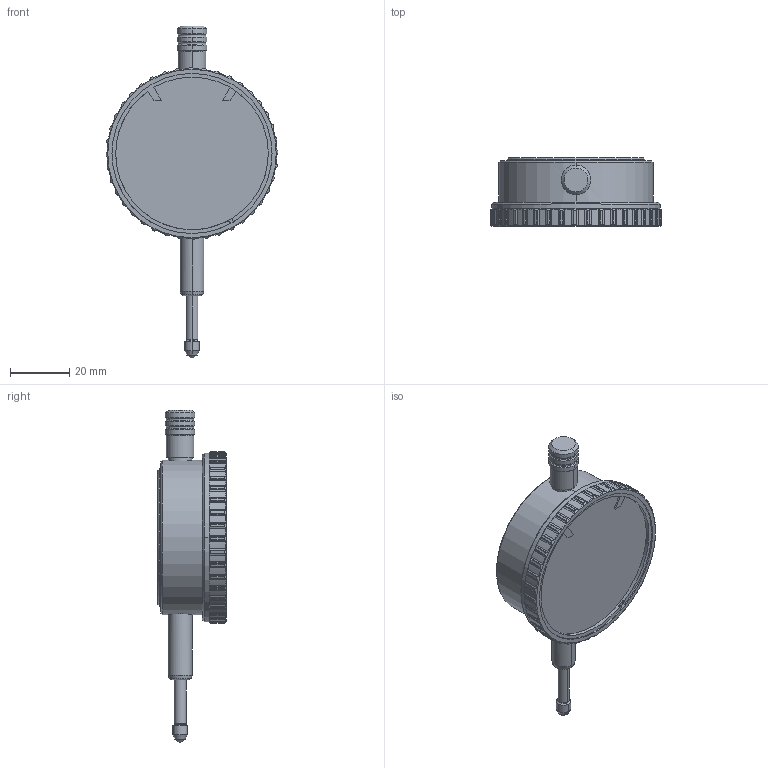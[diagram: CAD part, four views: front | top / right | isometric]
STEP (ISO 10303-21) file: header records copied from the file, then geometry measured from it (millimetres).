
FILE_DESCRIPTION(('STEP AP214'),'1');
FILE_NAME('SI-18.STP','2016-07-21T05:15:26',(' '),(' '),'Spatial InterOp 3D',' ',' ');
FILE_SCHEMA(('automotive_design'));
Length unit declared in the file: millimetre
Products named in the file (1): 1
Bounding box: 58 x 23 x 111.99 mm (x, y, z)
Volume: 50871.2 mm3; surface area: 10717.9 mm2
Topology: 1 solids, 4 shells, 401 faces, 1094 edges, 714 vertices
Faces by surface type: cylinder 241, plane 125, cone 34, sphere 1
Entity records: 14023 total; most frequent: CARTESIAN_POINT 4428, ORIENTED_EDGE 2188, DIRECTION 1864, EDGE_CURVE 1094, AXIS2_PLACEMENT_3D 730, VERTEX_POINT 714, EDGE_LOOP 420, LINE 404
